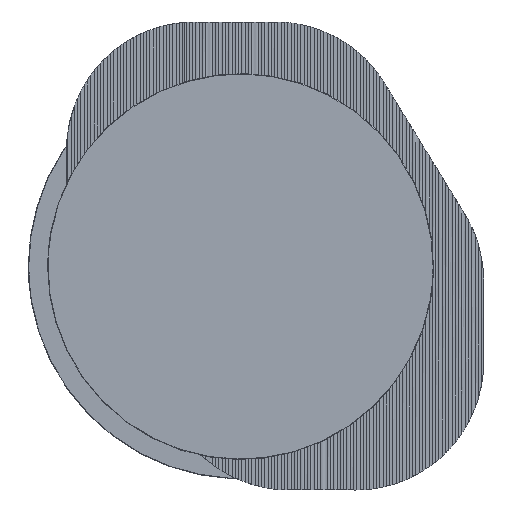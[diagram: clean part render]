
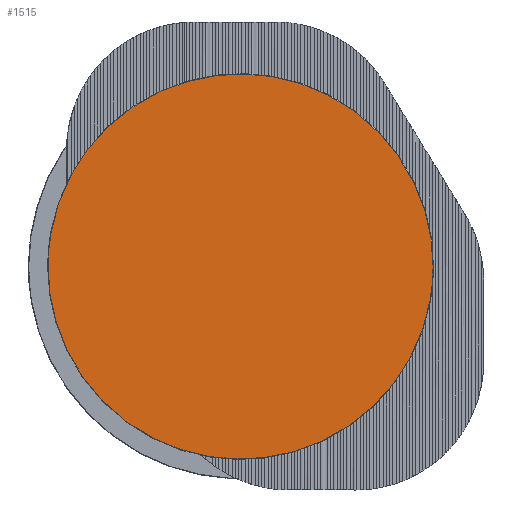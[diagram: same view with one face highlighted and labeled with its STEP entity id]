
A CAD part, front view. The second image highlights one B-rep face of the part: STEP entity #1515.
In plain terms, the highlighted planar face has unit normal (0, -1, 0).
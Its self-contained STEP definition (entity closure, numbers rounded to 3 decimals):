
#18=(
BOUNDED_CURVE()
B_SPLINE_CURVE(2,(#10016,#10017,#10018,#10019,#10020),.UNSPECIFIED.,.F.,
 .F.)
B_SPLINE_CURVE_WITH_KNOTS((3,2,3),(0.,736.703,1473.406),
 .UNSPECIFIED.)
CURVE()
GEOMETRIC_REPRESENTATION_ITEM()
RATIONAL_B_SPLINE_CURVE((1.,0.707,1.,0.707,1.))
REPRESENTATION_ITEM('')
);
#23=(
BOUNDED_CURVE()
B_SPLINE_CURVE(2,(#10042,#10043,#10044,#10045,#10046),.UNSPECIFIED.,.F.,
 .F.)
B_SPLINE_CURVE_WITH_KNOTS((3,2,3),(1473.406,2210.11,2946.813),
 .UNSPECIFIED.)
CURVE()
GEOMETRIC_REPRESENTATION_ITEM()
RATIONAL_B_SPLINE_CURVE((1.,0.707,1.,0.707,1.))
REPRESENTATION_ITEM('')
);
#1515=ADVANCED_FACE('',(#2064),#9785,.T.);
#2064=FACE_OUTER_BOUND('',#2615,.T.);
#2615=EDGE_LOOP('',(#3206,#3207));
#3206=ORIENTED_EDGE('',*,*,#6412,.T.);
#3207=ORIENTED_EDGE('',*,*,#6419,.T.);
#6412=EDGE_CURVE('',#8719,#8723,#18,.T.);
#6419=EDGE_CURVE('',#8723,#8719,#23,.T.);
#8719=VERTEX_POINT('',#9990);
#8723=VERTEX_POINT('',#9994);
#9785=PLANE('',#9822);
#9822=AXIS2_PLACEMENT_3D('',#9936,#9842,$);
#9842=DIRECTION('',(0.,-1.,0.));
#9936=CARTESIAN_POINT('',(1985.257,-513.604,44.506));
#9990=CARTESIAN_POINT('',(3041.757,-513.604,632.006));
#9994=CARTESIAN_POINT('',(2103.757,-513.604,632.006));
#10016=CARTESIAN_POINT('',(3041.757,-513.604,632.006));
#10017=CARTESIAN_POINT('',(3041.757,-513.604,1101.006));
#10018=CARTESIAN_POINT('',(2572.757,-513.604,1101.006));
#10019=CARTESIAN_POINT('',(2103.757,-513.604,1101.006));
#10020=CARTESIAN_POINT('',(2103.757,-513.604,632.006));
#10042=CARTESIAN_POINT('',(2103.757,-513.604,632.006));
#10043=CARTESIAN_POINT('',(2103.757,-513.604,163.006));
#10044=CARTESIAN_POINT('',(2572.757,-513.604,163.006));
#10045=CARTESIAN_POINT('',(3041.757,-513.604,163.006));
#10046=CARTESIAN_POINT('',(3041.757,-513.604,632.006));
